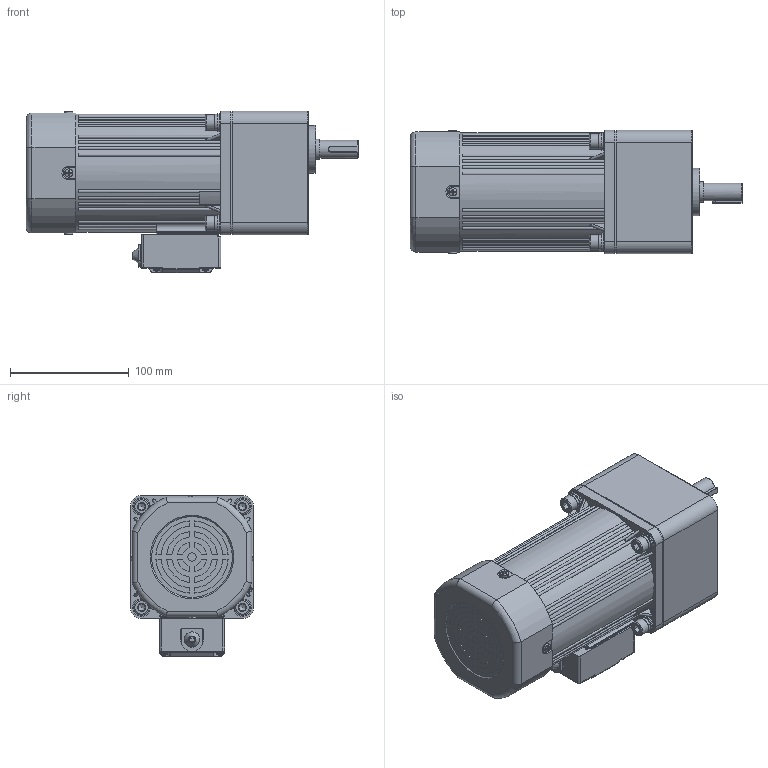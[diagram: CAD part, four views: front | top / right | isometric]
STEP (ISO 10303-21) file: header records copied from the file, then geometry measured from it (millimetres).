
FILE_DESCRIPTION(/* description */ (''),/* implementation_level */ '2;1');
FILE_NAME(/* name */ '6RK200RGUC·TF_6GU3-750K-C·15L长款接线盒.stp',/* time_stamp */ '2025-04-13T17:03:22+08:00',/* author */ (''),/* organization */ (''),/* preprocessor_version */ 'ST-DEVELOPER v18.102',/* originating_system */ 'SIEMENS PLM Software NX 2027',/* authorisation */ '');
FILE_SCHEMA (('AP203_CONFIGURATION_CONTROLLED_3D_DESIGN_OF_MECHANICAL_PARTS_AND_ASSEMBLIES_MIM_LF { 1 0 10303 403 2 1 2}'));
Length unit declared in the file: millimetre
Products named in the file (1): 6RK200CC·RF_6GU3-750K-C·15L_stp_M066263C6523mup1
Bounding box: 279.5 x 104.06 x 136.03 mm (x, y, z)
Volume: 2155866.4 mm3; surface area: 193774.5 mm2
Topology: 16 solids, 16 shells, 1538 faces, 4010 edges, 2558 vertices
Faces by surface type: plane 713, cylinder 452, bspline 169, cone 94, torus 74, sphere 36
Full cylindrical faces by diameter (mm): 2.2 x2, 2.9 x4, 3.5 x2, 4 x1, 4.2 x1, 4.55 x1, 4.8 x1, 5.15 x1, 5.6 x4, 6 x2, 6.8 x16, 7 x2, 7.76 x4, 8 x1, 8.4 x4, 8.5 x4, 9 x4, 10 x2, 13 x5, 14 x5, 15 x5, 15.5 x1, 17 x1, 17.3 x1, 19 x1, 30 x1, 40 x1, 76 x1, 89 x1, 95 x1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
Entity records: 47211 total; most frequent: CARTESIAN_POINT 11081, ORIENTED_EDGE 7520, DIRECTION 7131, EDGE_CURVE 3760, AXIS2_PLACEMENT_3D 2703, VERTEX_POINT 2483, EDGE_LOOP 1809, LINE 1725
